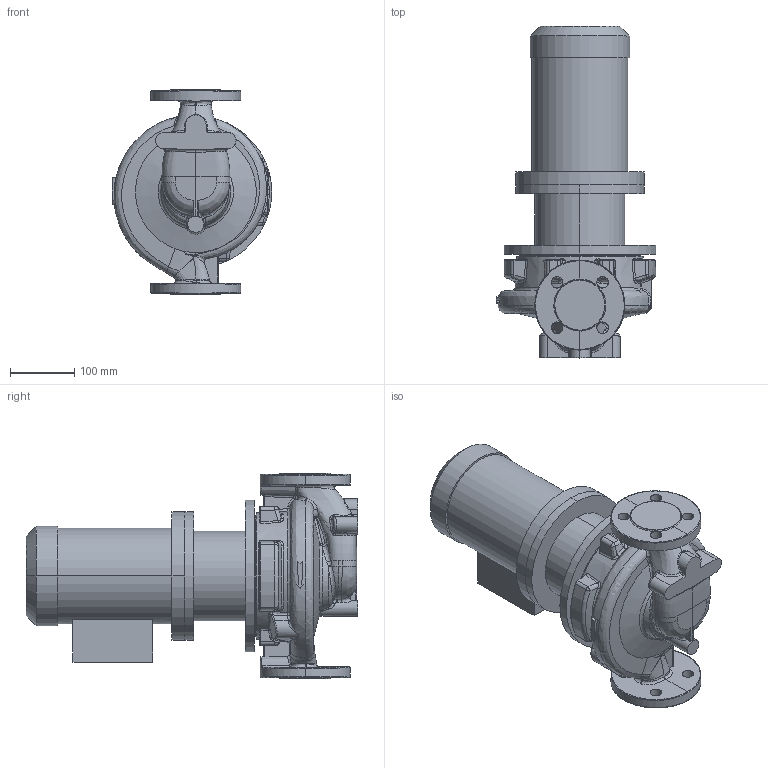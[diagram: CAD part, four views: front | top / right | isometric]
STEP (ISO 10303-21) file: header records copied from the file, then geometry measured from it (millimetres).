
FILE_DESCRIPTION (( 'STEP AP214' ), '1' );
FILE_NAME ('KRL 32-160 ñ äâèãàòåëåì 80A4 (0,55êÂò).STEP', '2026-03-13T08:34:45', ( '' ), ( '' ), 'SwSTEP 2.0', 'SolidWorks 2016', '' );
FILE_SCHEMA (( 'AUTOMOTIVE_DESIGN' ));
Length unit declared in the file: millimetre
Products named in the file (1): KRL 32-160 ñ äâèãàòåëåì 80A4 (0,55êÂò)
Bounding box: 248 x 516.3 x 320 mm (x, y, z)
Volume: 13161896.6 mm3; surface area: 744210.7 mm2
Topology: 4 solids, 4 shells, 630 faces, 1530 edges, 907 vertices
Faces by surface type: bspline 312, cylinder 116, plane 102, cone 36, torus 35, sphere 29
Entity records: 73362 total; most frequent: CARTESIAN_POINT 54461, ORIENTED_EDGE 3018, DIRECTION 1766, EDGE_CURVE 1509, VERTEX_POINT 907, AXIS2_PLACEMENT_3D 769, B_SPLINE_CURVE_WITH_KNOTS 705, EDGE_LOOP 666
